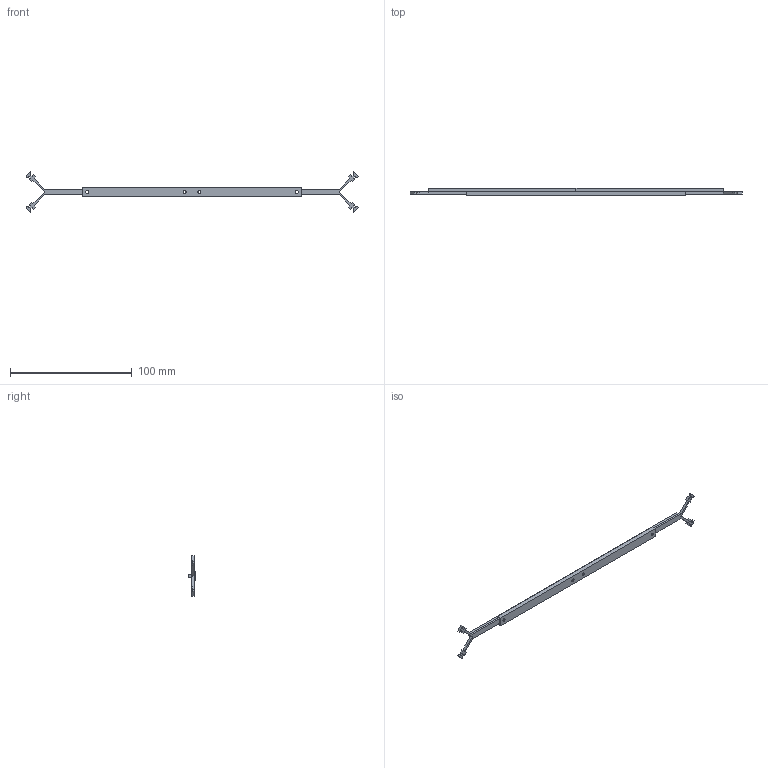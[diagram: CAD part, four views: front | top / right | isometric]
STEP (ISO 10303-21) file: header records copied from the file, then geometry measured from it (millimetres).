
FILE_DESCRIPTION(/* description */ (''),/* implementation_level */ '2;1');
FILE_NAME(/* name */ 'C:/Users/priba/Downloads/ArenaBeamHigh2Parts.step',/* time_stamp */ '2021-11-07T18:16:50+01:00',/* author */ (''),/* organization */ (''),/* preprocessor_version */ 'ST-DEVELOPER v18.1',/* originating_system */ 'Autodesk Translation Framework v10.10.0.1391',/* authorisation */ '');
FILE_SCHEMA (('AUTOMOTIVE_DESIGN { 1 0 10303 214 3 1 1 }'));
Length unit declared in the file: millimetre
Products named in the file (1): ArenaBeamHigh2Parts
Bounding box: 272.19 x 6.5 x 33.08 mm (x, y, z)
Volume: 7351.4 mm3; surface area: 10607 mm2
Topology: 3 solids, 3 shells, 102 faces, 280 edges, 184 vertices
Faces by surface type: plane 78, cylinder 24
Full cylindrical faces by diameter (mm): 2.4 x8
Entity records: 3271 total; most frequent: CARTESIAN_POINT 567, ORIENTED_EDGE 560, DIRECTION 534, EDGE_CURVE 280, LINE 232, VECTOR 232, VERTEX_POINT 184, AXIS2_PLACEMENT_3D 151
